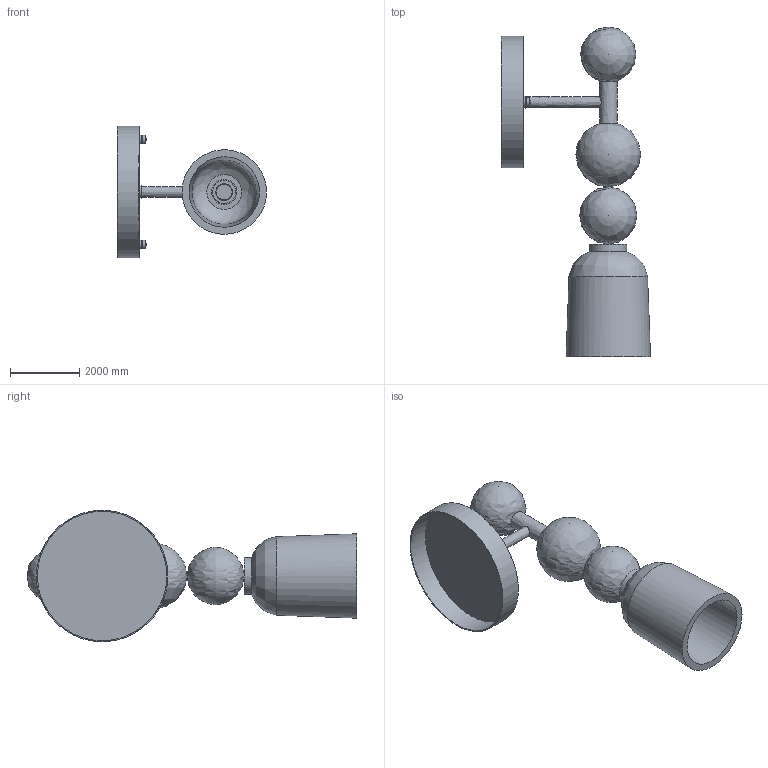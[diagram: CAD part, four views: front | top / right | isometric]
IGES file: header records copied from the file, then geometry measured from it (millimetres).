
Global section: file name: Flume Alabaster Wall Lamp-D3.9″-H15.4″,48H; native system: AutoCAD 2022 - 简体中文 (Simplified Chinese); preprocessor: Autodesk Translation Framework DWG producer (atf_dwg_producer); organization: unknown; date: 20251229.170532; units: inch
Bounding box: 4318.12 x 9559.29 x 3805.08 mm (x, y, z)
Volume: 13668648970.5 mm3; surface area: 121842477.2 mm2
Topology: 14 solids, 14 shells, 118 faces, 281 edges, 196 vertices
Faces by surface type: bspline 118
